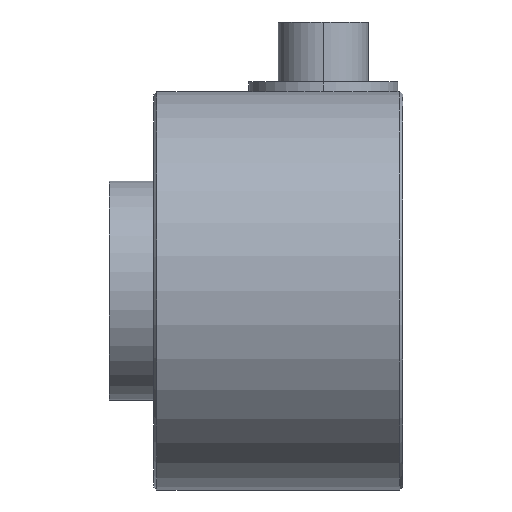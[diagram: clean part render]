
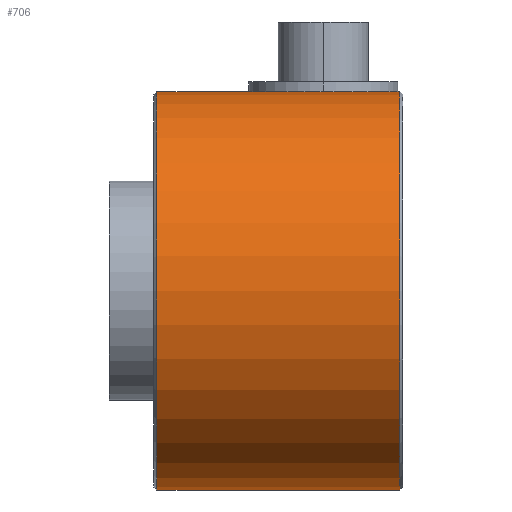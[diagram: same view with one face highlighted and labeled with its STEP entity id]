
A CAD part, left-side view. The second image highlights one B-rep face of the part: STEP entity #706.
In plain terms, the highlighted cylindrical face has radius 25.4 mm (diameter 50.8 mm), a partial arc.
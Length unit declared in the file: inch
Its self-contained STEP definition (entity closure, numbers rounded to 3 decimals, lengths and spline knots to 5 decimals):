
#2 = EDGE_CURVE ( 'NONE', #385, #386, #281, .T. ) ;
#19 = EDGE_CURVE ( 'NONE', #402, #384, #237, .T. ) ;
#30 = EDGE_CURVE ( 'NONE', #386, #384, #316, .T. ) ;
#39 = EDGE_CURVE ( 'NONE', #402, #385, #308, .T. ) ;
#67 = AXIS2_PLACEMENT_3D ( 'NONE', #502, #509, #508 ) ;
#71 = AXIS2_PLACEMENT_3D ( 'NONE', #485, #495, #474 ) ;
#77 = AXIS2_PLACEMENT_3D ( 'NONE', #627, #621, #624 ) ;
#121 = EDGE_LOOP ( 'NONE', ( #253, #268, #267, #196 ) ) ;
#196 = ORIENTED_EDGE ( 'NONE', *, *, #30, .T. ) ;
#237 = LINE ( 'NONE', #443, #270 ) ;
#253 = ORIENTED_EDGE ( 'NONE', *, *, #19, .F. ) ;
#267 = ORIENTED_EDGE ( 'NONE', *, *, #2, .T. ) ;
#268 = ORIENTED_EDGE ( 'NONE', *, *, #39, .T. ) ;
#270 = VECTOR ( 'NONE', #426, 39.37008 ) ;
#278 = VECTOR ( 'NONE', #419, 39.37008 ) ;
#281 = LINE ( 'NONE', #408, #278 ) ;
#308 = CIRCLE ( 'NONE', #67, 1. ) ;
#316 = CIRCLE ( 'NONE', #71, 1. ) ;
#347 = CYLINDRICAL_SURFACE ( 'NONE', #77, 1. ) ;
#370 = FACE_OUTER_BOUND ( 'NONE', #121, .T. ) ;
#384 = VERTEX_POINT ( 'NONE', #547 ) ;
#385 = VERTEX_POINT ( 'NONE', #549 ) ;
#386 = VERTEX_POINT ( 'NONE', #527 ) ;
#402 = VERTEX_POINT ( 'NONE', #521 ) ;
#408 = CARTESIAN_POINT ( 'NONE',  ( 0., 1.25, -1. ) ) ;
#419 = DIRECTION ( 'NONE',  ( 0., -1., 0. ) ) ;
#426 = DIRECTION ( 'NONE',  ( 0., -1., 0. ) ) ;
#443 = CARTESIAN_POINT ( 'NONE',  ( 0., 1.25, 1. ) ) ;
#474 = DIRECTION ( 'NONE',  ( 0., 0., 1. ) ) ;
#485 = CARTESIAN_POINT ( 'NONE',  ( 0., 0.015, 0. ) ) ;
#495 = DIRECTION ( 'NONE',  ( 0., 1., 0. ) ) ;
#502 = CARTESIAN_POINT ( 'NONE',  ( 0., 1.235, 0. ) ) ;
#508 = DIRECTION ( 'NONE',  ( 0., 0., 1. ) ) ;
#509 = DIRECTION ( 'NONE',  ( 0., -1., 0. ) ) ;
#521 = CARTESIAN_POINT ( 'NONE',  ( 0., 1.235, 1. ) ) ;
#527 = CARTESIAN_POINT ( 'NONE',  ( 0., 0.015, -1. ) ) ;
#547 = CARTESIAN_POINT ( 'NONE',  ( 0., 0.015, 1. ) ) ;
#549 = CARTESIAN_POINT ( 'NONE',  ( 0., 1.235, -1. ) ) ;
#621 = DIRECTION ( 'NONE',  ( 0., -1., 0. ) ) ;
#624 = DIRECTION ( 'NONE',  ( 0., 0., -1. ) ) ;
#627 = CARTESIAN_POINT ( 'NONE',  ( 0., 1.25, 0. ) ) ;
#706 = ADVANCED_FACE ( 'NONE', ( #370 ), #347, .T. ) ;
